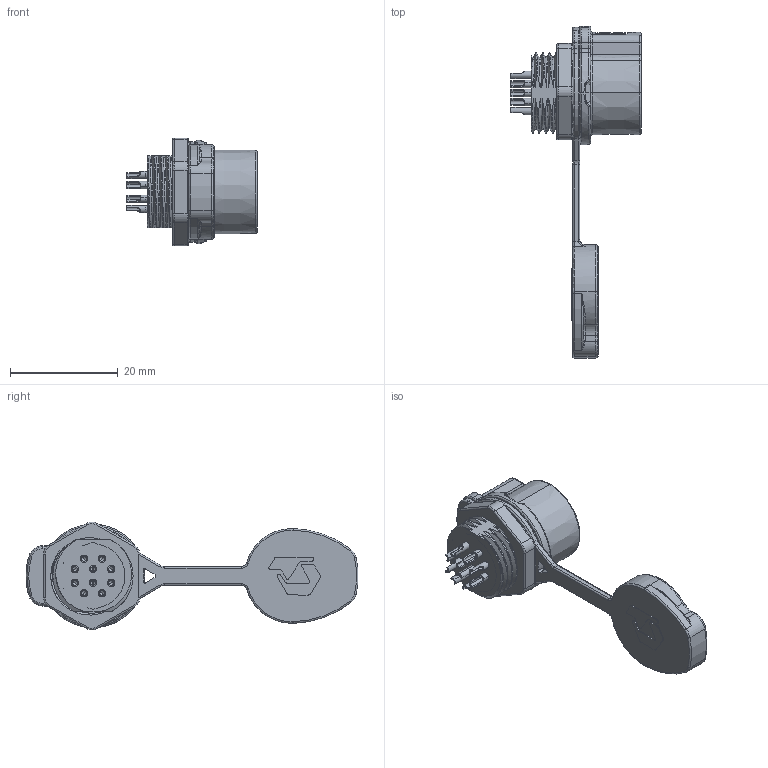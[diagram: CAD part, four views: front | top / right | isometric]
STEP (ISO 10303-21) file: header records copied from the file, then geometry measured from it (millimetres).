
FILE_DESCRIPTION (( 'STEP AP203' ), '1' );
FILE_NAME ('PLG14 10郋等謂脣釱淏蚾.STEP', '2025-11-18T10:17:24', ( '' ), ( '' ), 'SwSTEP 2.0', 'SolidWorks 2024', '' );
FILE_SCHEMA (( 'CONFIG_CONTROL_DESIGN' ));
Length unit declared in the file: millimetre
Products named in the file (1): PLG14 10芯单孔插座正装
Bounding box: 24.2 x 61.7 x 20.05 mm (x, y, z)
Volume: 4585.8 mm3; surface area: 5050.4 mm2
Topology: 1 solids, 1 shells, 1261 faces, 3198 edges, 1990 vertices
Faces by surface type: plane 384, cylinder 327, bspline 240, torus 185, cone 117, sphere 8
Entity records: 62714 total; most frequent: CARTESIAN_POINT 33973, ORIENTED_EDGE 6332, DIRECTION 5572, EDGE_CURVE 3166, AXIS2_PLACEMENT_3D 2162, VERTEX_POINT 1990, EDGE_LOOP 1346, FACE_OUTER_BOUND 1261
